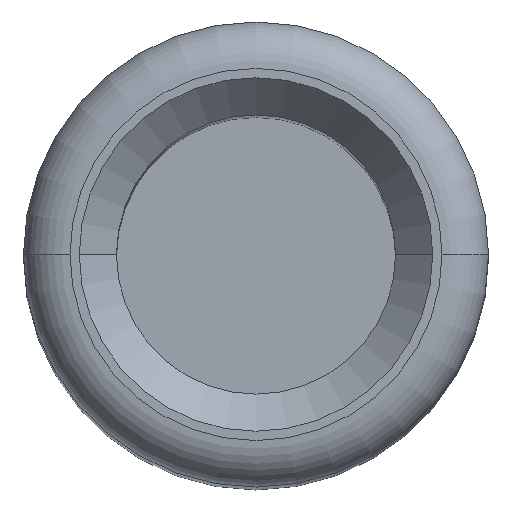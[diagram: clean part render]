
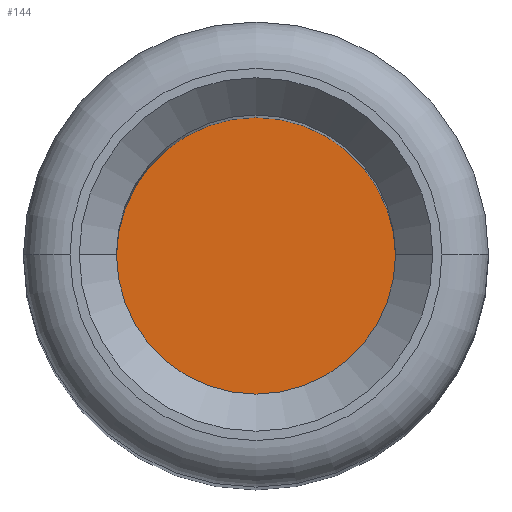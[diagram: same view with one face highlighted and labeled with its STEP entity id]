
A CAD part, top view. The second image highlights one B-rep face of the part: STEP entity #144.
In plain terms, the highlighted planar face has unit normal (0, 0, 1).
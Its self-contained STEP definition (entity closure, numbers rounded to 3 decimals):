
#10 = PLANE ( 'NONE',  #134 ) ;
#26 = AXIS2_PLACEMENT_3D ( 'NONE', #289, #234, #606 ) ;
#44 = DIRECTION ( 'NONE',  ( 0., 0., 1. ) ) ;
#66 = EDGE_CURVE ( 'NONE', #92, #436, #599, .T. ) ;
#92 = VERTEX_POINT ( 'NONE', #107 ) ;
#107 = CARTESIAN_POINT ( 'NONE',  ( -3., 0., 8. ) ) ;
#134 = AXIS2_PLACEMENT_3D ( 'NONE', #268, #44, #660 ) ;
#144 = ADVANCED_FACE ( 'NONE', ( #391 ), #10, .T. ) ;
#158 = EDGE_CURVE ( 'NONE', #436, #92, #323, .T. ) ;
#234 = DIRECTION ( 'NONE',  ( 0., 0., 1. ) ) ;
#249 = EDGE_LOOP ( 'NONE', ( #544, #579 ) ) ;
#260 = DIRECTION ( 'NONE',  ( 1., 0., 0. ) ) ;
#268 = CARTESIAN_POINT ( 'NONE',  ( 0., 0., 8. ) ) ;
#289 = CARTESIAN_POINT ( 'NONE',  ( 0., 0., 8. ) ) ;
#323 = CIRCLE ( 'NONE', #26, 3. ) ;
#391 = FACE_OUTER_BOUND ( 'NONE', #249, .T. ) ;
#436 = VERTEX_POINT ( 'NONE', #628 ) ;
#505 = AXIS2_PLACEMENT_3D ( 'NONE', #690, #572, #260 ) ;
#544 = ORIENTED_EDGE ( 'NONE', *, *, #158, .T. ) ;
#572 = DIRECTION ( 'NONE',  ( 0., 0., 1. ) ) ;
#579 = ORIENTED_EDGE ( 'NONE', *, *, #66, .T. ) ;
#599 = CIRCLE ( 'NONE', #505, 3. ) ;
#606 = DIRECTION ( 'NONE',  ( 1., 0., 0. ) ) ;
#628 = CARTESIAN_POINT ( 'NONE',  ( 3., 0., 8. ) ) ;
#660 = DIRECTION ( 'NONE',  ( 1., 0., 0. ) ) ;
#690 = CARTESIAN_POINT ( 'NONE',  ( 0., 0., 8. ) ) ;
